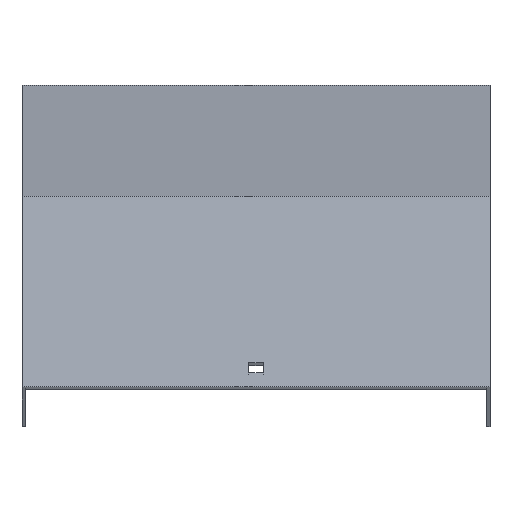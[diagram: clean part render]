
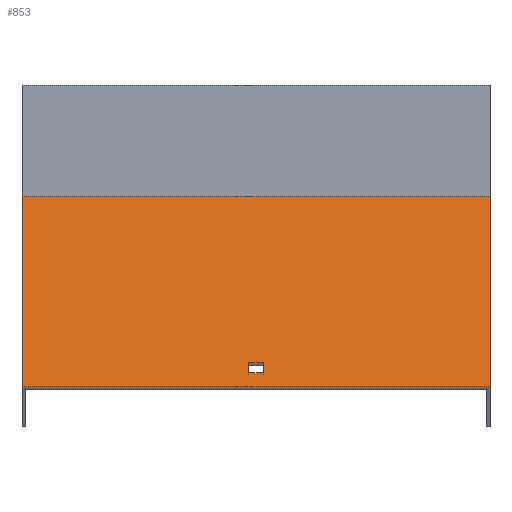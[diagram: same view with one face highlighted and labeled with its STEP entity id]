
A CAD part, top view. The second image highlights one B-rep face of the part: STEP entity #853.
In plain terms, the highlighted planar face has unit normal (0, 0.866, 0.5).
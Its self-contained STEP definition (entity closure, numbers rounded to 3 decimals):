
#3 = FACE_BOUND ( 'NONE', #476, .T. ) ;
#4 = ORIENTED_EDGE ( 'NONE', *, *, #570, .T. ) ;
#12 = VERTEX_POINT ( 'NONE', #93 ) ;
#31 = VECTOR ( 'NONE', #108, 1000. ) ;
#39 = CARTESIAN_POINT ( 'NONE',  ( -3.25, -105.285, 479.568 ) ) ;
#52 = PLANE ( 'NONE',  #765 ) ;
#55 = LINE ( 'NONE', #137, #597 ) ;
#60 = CARTESIAN_POINT ( 'NONE',  ( 101.5, -29.785, 348.799 ) ) ;
#61 = VECTOR ( 'NONE', #76, 1000. ) ;
#67 = DIRECTION ( 'NONE',  ( 0., -0.5, 0.866 ) ) ;
#76 = DIRECTION ( 'NONE',  ( -1., 0., 0. ) ) ;
#93 = CARTESIAN_POINT ( 'NONE',  ( 101.5, -28.468, 346.518 ) ) ;
#101 = CARTESIAN_POINT ( 'NONE',  ( 3.25, -105.285, 479.568 ) ) ;
#108 = DIRECTION ( 'NONE',  ( -1., 0., 0. ) ) ;
#121 = LINE ( 'NONE', #595, #775 ) ;
#126 = CARTESIAN_POINT ( 'NONE',  ( 101.5, -111.285, 489.961 ) ) ;
#137 = CARTESIAN_POINT ( 'NONE',  ( 3.25, -29.785, 348.799 ) ) ;
#141 = ORIENTED_EDGE ( 'NONE', *, *, #850, .F. ) ;
#195 = CARTESIAN_POINT ( 'NONE',  ( -101.5, -29.785, 348.799 ) ) ;
#200 = ORIENTED_EDGE ( 'NONE', *, *, #311, .T. ) ;
#202 = VECTOR ( 'NONE', #581, 1000. ) ;
#203 = VERTEX_POINT ( 'NONE', #379 ) ;
#209 = EDGE_CURVE ( 'NONE', #203, #698, #249, .T. ) ;
#211 = ORIENTED_EDGE ( 'NONE', *, *, #513, .T. ) ;
#213 = CARTESIAN_POINT ( 'NONE',  ( 101.5, -28.468, 346.518 ) ) ;
#249 = LINE ( 'NONE', #848, #202 ) ;
#278 = ORIENTED_EDGE ( 'NONE', *, *, #436, .T. ) ;
#306 = LINE ( 'NONE', #564, #802 ) ;
#311 = EDGE_CURVE ( 'NONE', #739, #203, #306, .T. ) ;
#313 = VERTEX_POINT ( 'NONE', #101 ) ;
#321 = DIRECTION ( 'NONE',  ( 0., -0.5, 0.866 ) ) ;
#323 = DIRECTION ( 'NONE',  ( 0., 0.5, -0.866 ) ) ;
#334 = LINE ( 'NONE', #588, #438 ) ;
#337 = DIRECTION ( 'NONE',  ( 0., -0.866, -0.5 ) ) ;
#357 = CARTESIAN_POINT ( 'NONE',  ( -101.5, -28.468, 346.518 ) ) ;
#369 = ORIENTED_EDGE ( 'NONE', *, *, #694, .T. ) ;
#379 = CARTESIAN_POINT ( 'NONE',  ( -3.25, -100.785, 471.774 ) ) ;
#380 = ORIENTED_EDGE ( 'NONE', *, *, #846, .F. ) ;
#388 = CARTESIAN_POINT ( 'NONE',  ( 101.5, -105.285, 479.568 ) ) ;
#434 = LINE ( 'NONE', #388, #31 ) ;
#436 = EDGE_CURVE ( 'NONE', #698, #313, #55, .T. ) ;
#438 = VECTOR ( 'NONE', #842, 1000. ) ;
#461 = DIRECTION ( 'NONE',  ( 0., -0.5, 0.866 ) ) ;
#476 = EDGE_LOOP ( 'NONE', ( #594, #278, #369, #200 ) ) ;
#492 = VERTEX_POINT ( 'NONE', #785 ) ;
#499 = DIRECTION ( 'NONE',  ( 0., 0.5, -0.866 ) ) ;
#513 = EDGE_CURVE ( 'NONE', #562, #492, #776, .T. ) ;
#562 = VERTEX_POINT ( 'NONE', #357 ) ;
#564 = CARTESIAN_POINT ( 'NONE',  ( -3.25, -29.785, 348.799 ) ) ;
#570 = EDGE_CURVE ( 'NONE', #12, #562, #603, .T. ) ;
#581 = DIRECTION ( 'NONE',  ( 1., 0., 0. ) ) ;
#588 = CARTESIAN_POINT ( 'NONE',  ( 101.5, -111.285, 489.961 ) ) ;
#594 = ORIENTED_EDGE ( 'NONE', *, *, #209, .T. ) ;
#595 = CARTESIAN_POINT ( 'NONE',  ( 101.5, -29.785, 348.799 ) ) ;
#597 = VECTOR ( 'NONE', #321, 1000. ) ;
#603 = LINE ( 'NONE', #213, #61 ) ;
#636 = CARTESIAN_POINT ( 'NONE',  ( 3.25, -100.785, 471.774 ) ) ;
#694 = EDGE_CURVE ( 'NONE', #313, #739, #434, .T. ) ;
#698 = VERTEX_POINT ( 'NONE', #636 ) ;
#703 = VECTOR ( 'NONE', #461, 1000. ) ;
#739 = VERTEX_POINT ( 'NONE', #39 ) ;
#765 = AXIS2_PLACEMENT_3D ( 'NONE', #60, #337, #323 ) ;
#775 = VECTOR ( 'NONE', #67, 1000. ) ;
#776 = LINE ( 'NONE', #195, #703 ) ;
#785 = CARTESIAN_POINT ( 'NONE',  ( -101.5, -111.285, 489.961 ) ) ;
#801 = EDGE_LOOP ( 'NONE', ( #211, #380, #141, #4 ) ) ;
#802 = VECTOR ( 'NONE', #499, 1000. ) ;
#836 = VERTEX_POINT ( 'NONE', #126 ) ;
#840 = FACE_OUTER_BOUND ( 'NONE', #801, .T. ) ;
#842 = DIRECTION ( 'NONE',  ( -1., 0., 0. ) ) ;
#846 = EDGE_CURVE ( 'NONE', #836, #492, #334, .T. ) ;
#848 = CARTESIAN_POINT ( 'NONE',  ( 101.5, -100.785, 471.774 ) ) ;
#850 = EDGE_CURVE ( 'NONE', #12, #836, #121, .T. ) ;
#853 = ADVANCED_FACE ( 'NONE', ( #3, #840 ), #52, .F. ) ;
